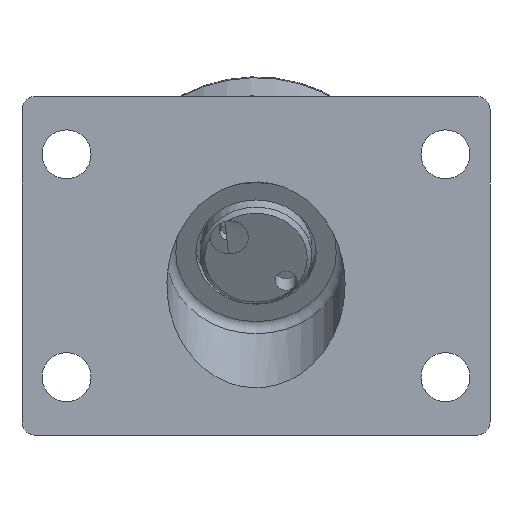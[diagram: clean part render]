
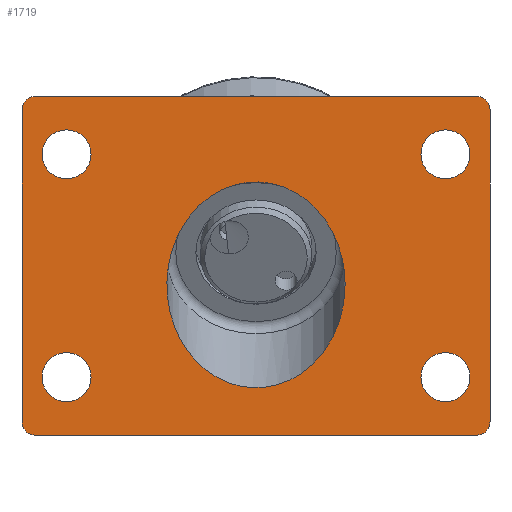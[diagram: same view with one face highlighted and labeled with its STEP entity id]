
A CAD part, front view. The second image highlights one B-rep face of the part: STEP entity #1719.
In plain terms, the highlighted planar face has unit normal (0, -1, 0) as drawn and (0, 0, -1) by its records, which use the part's own axes.
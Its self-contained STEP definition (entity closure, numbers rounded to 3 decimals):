
#39=ELLIPSE('',#1989,23.094,20.);
#109=LINE('',#3276,#181);
#113=LINE('',#3285,#185);
#120=LINE('',#3321,#192);
#121=LINE('',#3324,#193);
#181=VECTOR('',#2406,99.);
#185=VECTOR('',#2416,70.);
#192=VECTOR('',#2461,99.);
#193=VECTOR('',#2464,70.);
#282=FACE_BOUND('',#535,.T.);
#283=FACE_BOUND('',#536,.T.);
#284=FACE_BOUND('',#537,.T.);
#285=FACE_BOUND('',#538,.T.);
#286=FACE_BOUND('',#539,.T.);
#314=PLANE('',#2000);
#402=FACE_OUTER_BOUND('',#534,.T.);
#534=EDGE_LOOP('',(#1385,#1386,#1387,#1388,#1389,#1390,#1391,#1392));
#535=EDGE_LOOP('',(#1393));
#536=EDGE_LOOP('',(#1394));
#537=EDGE_LOOP('',(#1395));
#538=EDGE_LOOP('',(#1396));
#539=EDGE_LOOP('',(#1397));
#673=CIRCLE('',#1979,3.);
#674=CIRCLE('',#1982,3.);
#682=CIRCLE('',#1998,3.);
#683=CIRCLE('',#2001,3.);
#684=CIRCLE('',#2002,5.5);
#685=CIRCLE('',#2003,5.5);
#686=CIRCLE('',#2004,5.5);
#687=CIRCLE('',#2005,5.5);
#802=VERTEX_POINT('',#3273);
#803=VERTEX_POINT('',#3275);
#804=VERTEX_POINT('',#3279);
#805=VERTEX_POINT('',#3283);
#806=VERTEX_POINT('',#3287);
#810=VERTEX_POINT('',#3299);
#814=VERTEX_POINT('',#3315);
#815=VERTEX_POINT('',#3317);
#816=VERTEX_POINT('',#3323);
#817=VERTEX_POINT('',#3326);
#818=VERTEX_POINT('',#3328);
#819=VERTEX_POINT('',#3330);
#820=VERTEX_POINT('',#3332);
#995=EDGE_CURVE('',#803,#802,#109,.T.);
#998=EDGE_CURVE('',#804,#802,#673,.T.);
#1000=EDGE_CURVE('',#804,#805,#113,.T.);
#1002=EDGE_CURVE('',#806,#805,#674,.T.);
#1007=EDGE_CURVE('',#810,#810,#39,.T.);
#1015=EDGE_CURVE('',#814,#815,#682,.T.);
#1017=EDGE_CURVE('',#806,#815,#120,.T.);
#1018=EDGE_CURVE('',#814,#816,#121,.T.);
#1019=EDGE_CURVE('',#803,#816,#683,.T.);
#1020=EDGE_CURVE('',#817,#817,#684,.T.);
#1021=EDGE_CURVE('',#818,#818,#685,.T.);
#1022=EDGE_CURVE('',#819,#819,#686,.T.);
#1023=EDGE_CURVE('',#820,#820,#687,.T.);
#1385=ORIENTED_EDGE('',*,*,#1015,.F.);
#1386=ORIENTED_EDGE('',*,*,#1018,.T.);
#1387=ORIENTED_EDGE('',*,*,#1019,.F.);
#1388=ORIENTED_EDGE('',*,*,#995,.T.);
#1389=ORIENTED_EDGE('',*,*,#998,.F.);
#1390=ORIENTED_EDGE('',*,*,#1000,.T.);
#1391=ORIENTED_EDGE('',*,*,#1002,.F.);
#1392=ORIENTED_EDGE('',*,*,#1017,.T.);
#1393=ORIENTED_EDGE('',*,*,#1007,.T.);
#1394=ORIENTED_EDGE('',*,*,#1020,.T.);
#1395=ORIENTED_EDGE('',*,*,#1021,.T.);
#1396=ORIENTED_EDGE('',*,*,#1022,.T.);
#1397=ORIENTED_EDGE('',*,*,#1023,.T.);
#1719=ADVANCED_FACE('',(#402,#282,#283,#284,#285,#286),#314,.F.);
#1979=AXIS2_PLACEMENT_3D('',#3281,#2411,#2412);
#1982=AXIS2_PLACEMENT_3D('',#3289,#2420,#2421);
#1989=AXIS2_PLACEMENT_3D('',#3300,#2434,#2435);
#1998=AXIS2_PLACEMENT_3D('',#3318,#2456,#2457);
#2000=AXIS2_PLACEMENT_3D('',#3322,#2462,#2463);
#2001=AXIS2_PLACEMENT_3D('',#3325,#2465,#2466);
#2002=AXIS2_PLACEMENT_3D('',#3327,#2467,#2468);
#2003=AXIS2_PLACEMENT_3D('',#3329,#2469,#2470);
#2004=AXIS2_PLACEMENT_3D('',#3331,#2471,#2472);
#2005=AXIS2_PLACEMENT_3D('',#3333,#2473,#2474);
#2406=DIRECTION('',(-1.,0.,0.));
#2411=DIRECTION('center_axis',(0.,0.,1.));
#2412=DIRECTION('ref_axis',(-0.707,-0.707,0.));
#2416=DIRECTION('',(0.,1.,0.));
#2420=DIRECTION('center_axis',(0.,0.,1.));
#2421=DIRECTION('ref_axis',(-0.707,0.707,0.));
#2434=DIRECTION('center_axis',(0.,0.,1.));
#2435=DIRECTION('ref_axis',(0.,1.,0.));
#2456=DIRECTION('center_axis',(0.,0.,1.));
#2457=DIRECTION('ref_axis',(0.707,0.707,0.));
#2461=DIRECTION('',(1.,0.,0.));
#2462=DIRECTION('center_axis',(0.,0.,1.));
#2463=DIRECTION('ref_axis',(0.,-1.,0.));
#2464=DIRECTION('',(0.,-1.,0.));
#2465=DIRECTION('center_axis',(0.,0.,1.));
#2466=DIRECTION('ref_axis',(0.707,-0.707,0.));
#2467=DIRECTION('center_axis',(0.,0.,1.));
#2468=DIRECTION('ref_axis',(1.,0.,0.));
#2469=DIRECTION('center_axis',(0.,0.,1.));
#2470=DIRECTION('ref_axis',(1.,0.,0.));
#2471=DIRECTION('center_axis',(0.,0.,1.));
#2472=DIRECTION('ref_axis',(1.,0.,0.));
#2473=DIRECTION('center_axis',(0.,0.,1.));
#2474=DIRECTION('ref_axis',(1.,0.,0.));
#3273=CARTESIAN_POINT('',(-49.5,-24.435,0.));
#3275=CARTESIAN_POINT('',(49.5,-24.435,0.));
#3276=CARTESIAN_POINT('',(52.5,-24.435,0.));
#3279=CARTESIAN_POINT('',(-52.5,-21.435,0.));
#3281=CARTESIAN_POINT('Origin',(-49.5,-21.435,0.));
#3283=CARTESIAN_POINT('',(-52.5,48.565,0.));
#3285=CARTESIAN_POINT('',(-52.5,-24.435,0.));
#3287=CARTESIAN_POINT('',(-49.5,51.565,0.));
#3289=CARTESIAN_POINT('Origin',(-49.5,48.565,0.));
#3299=CARTESIAN_POINT('',(20.,17.846,0.));
#3300=CARTESIAN_POINT('Origin',(0.,17.846,
0.));
#3315=CARTESIAN_POINT('',(52.5,48.565,0.));
#3317=CARTESIAN_POINT('',(49.5,51.565,0.));
#3318=CARTESIAN_POINT('Origin',(49.5,48.565,0.));
#3321=CARTESIAN_POINT('',(-52.5,51.565,0.));
#3322=CARTESIAN_POINT('Origin',(0.,13.565,0.));
#3323=CARTESIAN_POINT('',(52.5,-21.435,0.));
#3324=CARTESIAN_POINT('',(52.5,51.565,0.));
#3325=CARTESIAN_POINT('Origin',(49.5,-21.435,0.));
#3326=CARTESIAN_POINT('',(37.,-11.435,0.));
#3327=CARTESIAN_POINT('Origin',(42.5,-11.435,0.));
#3328=CARTESIAN_POINT('',(-48.,38.565,0.));
#3329=CARTESIAN_POINT('Origin',(-42.5,38.565,0.));
#3330=CARTESIAN_POINT('',(37.,38.565,0.));
#3331=CARTESIAN_POINT('Origin',(42.5,38.565,0.));
#3332=CARTESIAN_POINT('',(-48.,-11.435,0.));
#3333=CARTESIAN_POINT('Origin',(-42.5,-11.435,0.));
